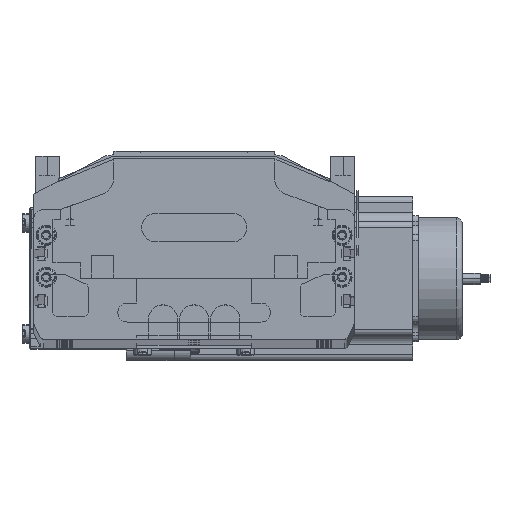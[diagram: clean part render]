
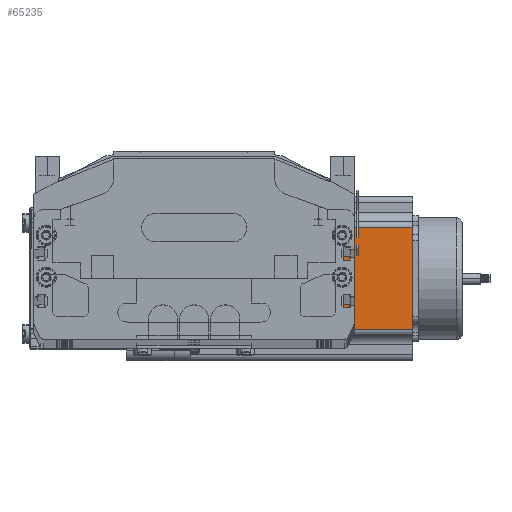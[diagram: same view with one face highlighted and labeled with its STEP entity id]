
A CAD part, top view. The second image highlights one B-rep face of the part: STEP entity #65235.
In plain terms, the highlighted planar face has unit normal (0, 0, 1) as drawn and (0, -1, 0) by its records, which use the part's own axes.
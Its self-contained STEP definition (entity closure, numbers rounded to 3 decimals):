
#35058 = CARTESIAN_POINT ( 'NONE',  ( 69.74, 0., 116.5 ) ) ;
#35071 = CARTESIAN_POINT ( 'NONE',  ( 16.16, 0., 0. ) ) ;
#35092 = DIRECTION ( 'NONE',  ( 0., 0., 1. ) ) ;
#35093 = DIRECTION ( 'NONE',  ( 0., 1., 0. ) ) ;
#35094 = CARTESIAN_POINT ( 'NONE',  ( 0., 0., 116.5 ) ) ;
#35095 = CARTESIAN_POINT ( 'NONE',  ( 69.74, 0., 116.5 ) ) ;
#35096 = LINE ( 'NONE', #35095, #35155 ) ;
#35106 = PLANE ( 'NONE',  #35111 ) ;
#35108 = FACE_OUTER_BOUND ( 'NONE', #65231, .T. ) ;
#35111 = AXIS2_PLACEMENT_3D ( 'NONE', #35094, #35093, #35092 ) ;
#35129 = DIRECTION ( 'NONE',  ( 0., 0., -1. ) ) ;
#35130 = VECTOR ( 'NONE', #35129, 1000. ) ;
#35140 = DIRECTION ( 'NONE',  ( 1., 0., 0. ) ) ;
#35141 = VECTOR ( 'NONE', #35140, 1000. ) ;
#35142 = CARTESIAN_POINT ( 'NONE',  ( 0., 0., 116.5 ) ) ;
#35144 = CARTESIAN_POINT ( 'NONE',  ( 16.16, 0., 116.5 ) ) ;
#35146 = LINE ( 'NONE', #35142, #35141 ) ;
#35147 = CARTESIAN_POINT ( 'NONE',  ( 16.16, 0., 116.5 ) ) ;
#35148 = LINE ( 'NONE', #35147, #35130 ) ;
#35149 = DIRECTION ( 'NONE',  ( 1., 0., 0. ) ) ;
#35150 = VECTOR ( 'NONE', #35149, 1000. ) ;
#35151 = CARTESIAN_POINT ( 'NONE',  ( 0., 0., 0. ) ) ;
#35154 = DIRECTION ( 'NONE',  ( 0., 0., 1. ) ) ;
#35155 = VECTOR ( 'NONE', #35154, 1000. ) ;
#35156 = LINE ( 'NONE', #35151, #35150 ) ;
#35172 = CARTESIAN_POINT ( 'NONE',  ( 69.74, 0., 0. ) ) ;
#65225 = VERTEX_POINT ( 'NONE', #35071 ) ;
#65231 = EDGE_LOOP ( 'NONE', ( #65237, #65236, #65255, #65243 ) ) ;
#65232 = VERTEX_POINT ( 'NONE', #35058 ) ;
#65235 = ADVANCED_FACE ( 'NONE', ( #35108 ), #35106, .F. ) ;
#65236 = ORIENTED_EDGE ( 'NONE', *, *, #65238, .T. ) ;
#65237 = ORIENTED_EDGE ( 'NONE', *, *, #65239, .T. ) ;
#65238 = EDGE_CURVE ( 'NONE', #65303, #65232, #35096, .T. ) ;
#65239 = EDGE_CURVE ( 'NONE', #65225, #65303, #35156, .T. ) ;
#65242 = EDGE_CURVE ( 'NONE', #65244, #65232, #35146, .T. ) ;
#65243 = ORIENTED_EDGE ( 'NONE', *, *, #65256, .T. ) ;
#65244 = VERTEX_POINT ( 'NONE', #35144 ) ;
#65255 = ORIENTED_EDGE ( 'NONE', *, *, #65242, .F. ) ;
#65256 = EDGE_CURVE ( 'NONE', #65244, #65225, #35148, .T. ) ;
#65303 = VERTEX_POINT ( 'NONE', #35172 ) ;
